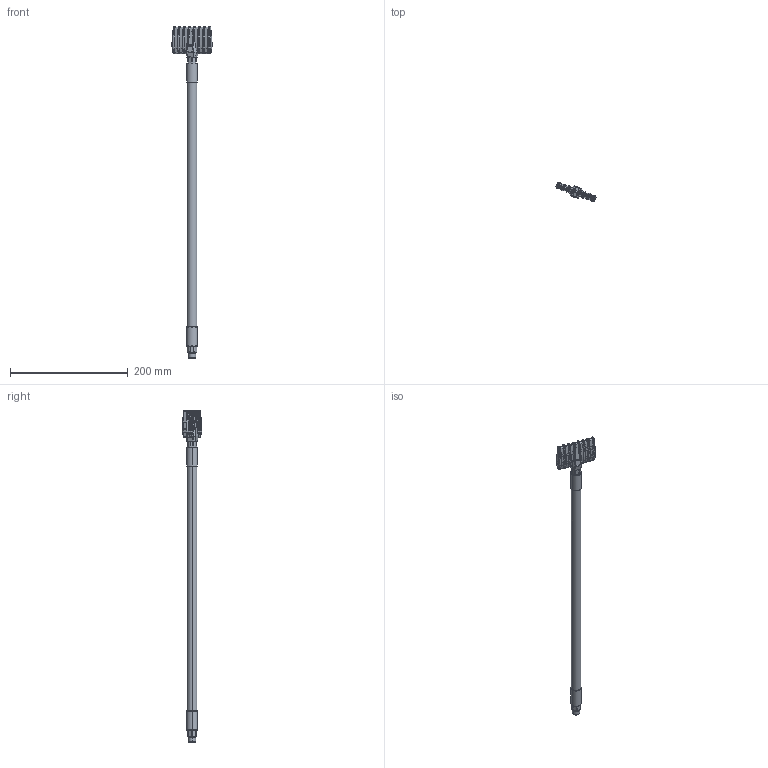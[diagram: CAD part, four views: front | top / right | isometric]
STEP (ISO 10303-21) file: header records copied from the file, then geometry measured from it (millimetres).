
FILE_DESCRIPTION (( 'STEP AP214' ), '1' );
FILE_NAME ('Silvent_9003W-S-500.STEP', '2024-10-16T12:48:12', ( '' ), ( '' ), 'SwSTEP 2.0', 'SolidWorks 2021', '' );
FILE_SCHEMA (( 'AUTOMOTIVE_DESIGN' ));
Length unit declared in the file: millimetre
Products named in the file (3): FB14_FB14-500; 9003W-S; Silvent_9003W-S-500
Assembly tree (2 placements, depth 2):
  Silvent_9003W-S-500
    FB14_FB14-500
    9003W-S
Bounding box: 68.03 x 33.14 x 563.14 mm (x, y, z)
Volume: 89506.5 mm3; surface area: 54313.8 mm2
Topology: 2 solids, 2 shells, 1331 faces, 3034 edges, 1680 vertices
Faces by surface type: cylinder 523, bspline 506, plane 239, sphere 32, cone 17, torus 14
Entity records: 55925 total; most frequent: CARTESIAN_POINT 17062, ORIENTED_EDGE 5996, DIRECTION 4450, EDGE_CURVE 2998, AXIS2_PLACEMENT_3D 1722, VERTEX_POINT 1680, EDGE_LOOP 1342, FACE_OUTER_BOUND 1331
